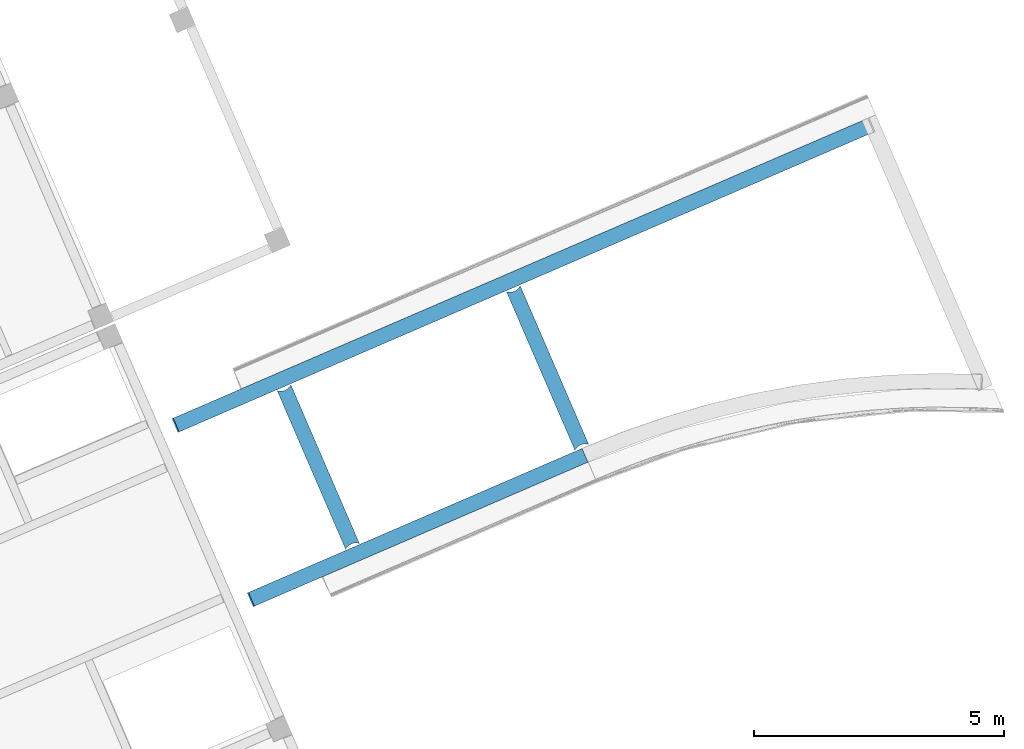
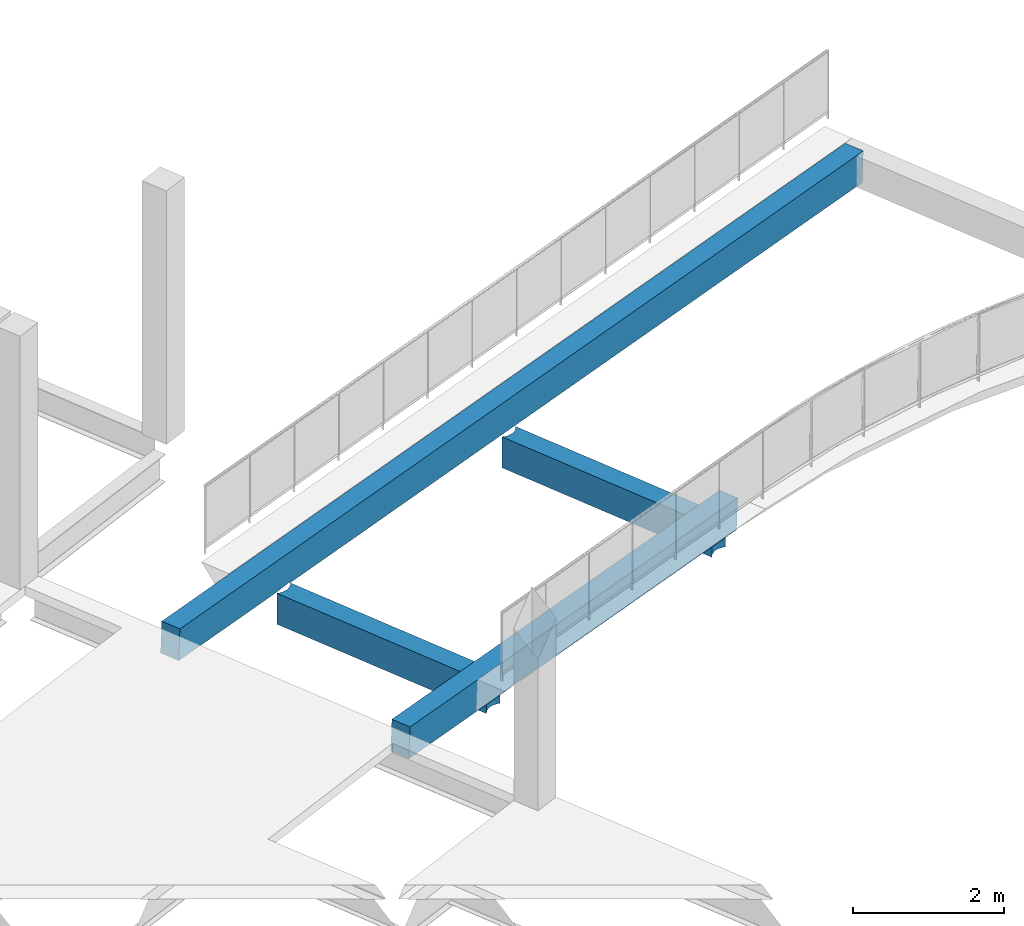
# One storey, part 23 of 24: 4 beams.
"""IFC4 building model written with IfcOpenShell, lengths in metres."""

from ifc_helpers import new_model, entity, si_unit, converted_unit, derived_unit, direction, frame, origin, place, context, subcontext, project, spatial, polygons, source, transform, mapped, material, type_object, type_shapes, element, save


model = new_model("IFC4")

# Units and contexts
model_context = context("Model", 3, precision=1e-05, world=origin(), true_north=direction((6.12323399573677e-17, 1.0)))
body_context = subcontext(model_context, "Body", "Model", "MODEL_VIEW")
ifc_project = project(units=[si_unit("LENGTHUNIT", "METRE"), si_unit("AREAUNIT", "SQUARE_METRE"), si_unit("VOLUMEUNIT", "CUBIC_METRE"), converted_unit("PLANEANGLEUNIT", "DEGREE", entity("IfcPlaneAngleMeasure", 0.0174532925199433), si_unit("PLANEANGLEUNIT", "RADIAN"), dimensions=[0, 0, 0, 0, 0, 0, 0]), si_unit("MASSUNIT", "GRAM", prefix="KILO"), derived_unit("MOMENTOFINERTIAUNIT", [(si_unit("LENGTHUNIT", "METRE"), 4)]), derived_unit("LINEARFORCEUNIT", [(si_unit("MASSUNIT", "GRAM", prefix="KILO"), 1), (si_unit("TIMEUNIT", "SECOND"), -2)]), derived_unit("WARPINGCONSTANTUNIT", [(si_unit("LENGTHUNIT", "METRE"), 6)]), derived_unit("THERMALTRANSMITTANCEUNIT", [(si_unit("MASSUNIT", "GRAM", prefix="KILO"), 1), (si_unit("THERMODYNAMICTEMPERATUREUNIT", "KELVIN"), -1), (si_unit("TIMEUNIT", "SECOND"), -3)]), derived_unit("USERDEFINED", [(si_unit("MASSUNIT", "GRAM", prefix="KILO"), 1), (si_unit("TIMEUNIT", "SECOND"), -2), (si_unit("THERMODYNAMICTEMPERATUREUNIT", "KELVIN"), -1)]), derived_unit("THERMALRESISTANCEUNIT", [(si_unit("MASSUNIT", "GRAM", prefix="KILO"), -1), (si_unit("TIMEUNIT", "SECOND"), 3), (si_unit("THERMODYNAMICTEMPERATUREUNIT", "KELVIN"), 1)])], contexts=[model_context])

# Site, building, storey
site_placement = place(None, origin())
site = spatial("IfcSite", under=ifc_project, at=site_placement, Name="Default", CompositionType="ELEMENT")
building_placement = place(site_placement, frame((12.6613425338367, -82.5732315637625, 317.15), z_axis=(0.0, 0.0, 1.0), x_axis=(-0.396377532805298, 0.918087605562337, 0.0)))
building = spatial("IfcBuilding", under=site, at=building_placement, Name="CESFAM Coyhaique", CompositionType="ELEMENT")
storey_placement = place(building_placement, frame((0.0, 0.0, 4.20000000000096)))
storey = spatial("IfcBuildingStorey", under=building, at=storey_placement, Name="Nivel 2", CompositionType="ELEMENT", Elevation=4.20000000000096)

# Beams
ifc_material = material(Name="HA")
beam_type_1 = type_object("IfcBeamType", Name="M_Concrete-Rectangular Beam:300 x 500mm", PredefinedType="BEAM", material=ifc_material)
shared_shape_1 = source(origin(), body_context, "Body", "Tessellation", [
    polygons([(0.301595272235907, 0.0, 0.499323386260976), (0.00159527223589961, 0.0, 0.499323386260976), (0.00159527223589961, 1.05706961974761e-05, 0.499120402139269), (0.00159527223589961, 0.0260029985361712, 4.44089209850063e-16), (0.301595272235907, 0.0260029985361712, 4.44089209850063e-16), (0.301595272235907, 1.05706961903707e-05, 0.499120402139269), (0.301595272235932, 15.1699995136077, 1.28932338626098), (0.301595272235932, 15.1960025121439, 0.79), (0.00159527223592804, 15.1960025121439, 0.79), (0.00159527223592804, 15.1699995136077, 1.28932338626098), (0.00159527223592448, 13.0600059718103, 0.678764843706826), (0.00159527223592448, 13.0600059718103, 0.679120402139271), (0.00159527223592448, 12.7245957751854, 0.679120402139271), (0.00159527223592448, 12.7245957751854, 0.661297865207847), (0.00159527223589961, 0.152471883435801, 0.00658605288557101), (0.0395563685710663, 12.6971796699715, 0.659870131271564), (0.0823701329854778, 12.678214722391, 0.658882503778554), (0.128182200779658, 12.6685223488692, 0.658377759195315), (0.175008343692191, 12.6685223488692, 0.658377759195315), (0.220820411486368, 12.678214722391, 0.658882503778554), (0.263634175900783, 12.6971796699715, 0.659870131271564), (0.301595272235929, 12.7245957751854, 0.661297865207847), (0.301595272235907, 0.152471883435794, 0.00658605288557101), (0.250336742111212, 7.69012490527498, 0.399120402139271), (0.0528538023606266, 7.69012490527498, 0.399120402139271), (0.100922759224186, 7.67308112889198, 0.39823282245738), (0.15159527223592, 7.66730087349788, 0.397931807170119), (0.202267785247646, 7.67308112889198, 0.39823282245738), (0.301595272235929, 12.7245957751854, 0.679120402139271), (0.301595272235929, 13.0600059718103, 0.679120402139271), (0.301595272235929, 13.0600059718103, 0.678764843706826), (0.263635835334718, 12.6971806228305, 0.679120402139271), (0.220821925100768, 12.6782152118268, 0.679120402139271), (0.175010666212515, 12.6685225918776, 0.679120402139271), (0.128185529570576, 12.6685220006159, 0.679120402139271), (0.0823737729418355, 12.6782135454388, 0.679120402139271), (0.0395589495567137, 12.6971781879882, 0.679120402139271), (0.00558386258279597, 13.0634898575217, 0.679120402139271), (0.00959763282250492, 13.0668335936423, 0.679120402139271), (0.293592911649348, 13.0668335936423, 0.679120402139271), (0.297655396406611, 13.0634482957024, 0.679120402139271), (0.297633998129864, 13.0634665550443, 0.67894505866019), (0.299625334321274, 13.0617271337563, 0.679120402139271), (0.299614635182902, 13.0617362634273, 0.678854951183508), (0.29862431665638, 13.0626014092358, 0.678900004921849), (0.300846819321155, 13.0606598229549, 0.678798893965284), (0.300610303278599, 13.0608665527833, 0.679120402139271), (0.295164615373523, 13.0655238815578, 0.67912040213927), (0.295122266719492, 13.065559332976, 0.679054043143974), (0.294357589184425, 13.0661964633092, 0.679087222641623), (0.294378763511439, 13.0661787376, 0.67912040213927), (0.296378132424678, 13.0645129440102, 0.678999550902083), (0.296410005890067, 13.0644860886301, 0.67912040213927), (0.297032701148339, 13.0639671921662, 0.679120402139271), (0.298640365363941, 13.0625877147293, 0.679120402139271), (0.00555654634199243, 13.0634665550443, 0.67894505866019), (0.0080682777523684, 13.065559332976, 0.679054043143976), (0.00802574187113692, 13.0655241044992, 0.679120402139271), (0.00680480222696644, 13.0645069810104, 0.679120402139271), (0.00681241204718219, 13.0645129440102, 0.678999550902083), (0.00618447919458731, 13.0639897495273, 0.678972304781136), (0.00358956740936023, 13.061747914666, 0.67912040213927), (0.0035759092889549, 13.0617362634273, 0.678854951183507), (0.00234372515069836, 13.0606598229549, 0.678798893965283), (0.00456622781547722, 13.0626014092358, 0.678900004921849), (0.00458671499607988, 13.0626188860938, 0.679120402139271), (0.00259241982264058, 13.0608769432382, 0.67912040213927), (0.21219296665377, 7.67561465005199, 0.399120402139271), (0.172043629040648, 7.66823198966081, 0.399120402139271), (0.131213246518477, 7.66822594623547, 0.399120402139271), (0.0910470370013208, 7.67560082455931, 0.399120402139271), (0.111130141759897, 7.6719133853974, 0.399120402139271), (0.151628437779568, 7.66822896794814, 0.399120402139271), (0.192118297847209, 7.6719233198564, 0.399120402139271), (0.219782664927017, 7.67929136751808, 0.398556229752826), (0.176931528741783, 7.67019100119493, 0.39808231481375), (0.126259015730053, 7.67019100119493, 0.39808231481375), (0.0834078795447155, 7.67929136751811, 0.398556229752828), (0.101088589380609, 7.67375710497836, 0.39912040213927), (0.11359088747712, 7.67163606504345, 0.398157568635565), (0.164263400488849, 7.6687459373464, 0.398007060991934), (0.202155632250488, 7.6737689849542, 0.399120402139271), (0.211025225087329, 7.67618624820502, 0.398394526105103), (0.189599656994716, 7.67163606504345, 0.398157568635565), (0.138927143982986, 7.6687459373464, 0.398007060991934), (0.0921653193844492, 7.67618624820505, 0.398394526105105), (0.161836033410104, 7.66823047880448, 0.399120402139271), (0.121171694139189, 7.67006966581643, 0.399120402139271), (0.235059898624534, 7.68431344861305, 0.399120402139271), (0.18208096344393, 7.67007765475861, 0.399120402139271), (0.141420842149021, 7.66822745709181, 0.399120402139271), (0.0681312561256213, 7.6843152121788, 0.399120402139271), (0.223626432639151, 7.67996404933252, 0.399120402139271), (0.079589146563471, 7.67995801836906, 0.399120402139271), (0.217909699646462, 7.67778934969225, 0.399120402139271), (0.0853180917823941, 7.67777942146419, 0.399120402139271), (0.235059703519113, 7.68470813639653, 0.398838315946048), (0.227421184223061, 7.68199975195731, 0.398697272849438), (0.0681308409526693, 7.68470813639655, 0.398838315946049), (0.223601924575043, 7.68064555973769, 0.398626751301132), (0.0757693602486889, 7.68199975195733, 0.398697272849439), (0.079588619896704, 7.68064555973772, 0.398626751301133), (0.073860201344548, 7.68213661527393, 0.399120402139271), (0.229343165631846, 7.68213874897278, 0.399120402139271), (0.0719501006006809, 7.68335394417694, 0.398767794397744), (0.231240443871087, 7.68335394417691, 0.398767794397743), (0.232201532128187, 7.68322609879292, 0.399120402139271), (0.0709957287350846, 7.68322591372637, 0.399120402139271), (0.0960678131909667, 7.67467896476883, 0.399120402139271), (0.0965440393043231, 7.67463368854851, 0.398313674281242), (0.215403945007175, 7.67773880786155, 0.398475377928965), (0.206646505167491, 7.6746336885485, 0.398313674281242), (0.207174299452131, 7.6746918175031, 0.399120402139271), (0.0877865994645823, 7.67773880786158, 0.398475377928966), (0.195933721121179, 7.67235859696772, 0.398195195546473), (0.197136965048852, 7.6728461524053, 0.399120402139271), (0.107256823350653, 7.67235859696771, 0.398195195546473), (0.106109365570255, 7.67283524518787, 0.399120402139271), (0.157929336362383, 7.66802340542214, 0.397969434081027), (0.145261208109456, 7.66802340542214, 0.397969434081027), (0.119924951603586, 7.67091353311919, 0.398119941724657), (0.177062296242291, 7.66915482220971, 0.399120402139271), (0.116150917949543, 7.67099152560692, 0.399120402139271), (0.13259307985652, 7.66946846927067, 0.398044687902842), (0.136317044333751, 7.66822670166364, 0.399120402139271), (0.170597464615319, 7.66946846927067, 0.398044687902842), (0.187099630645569, 7.67100048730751, 0.399120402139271), (0.126192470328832, 7.66914780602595, 0.39912040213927), (0.242698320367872, 7.68721917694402, 0.399120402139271), (0.242698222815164, 7.68741652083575, 0.398979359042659), (0.246517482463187, 7.68877071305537, 0.399049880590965), (0.24651753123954, 7.6886720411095, 0.399120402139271), (0.0604925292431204, 7.6872200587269, 0.399120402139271), (0.0604923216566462, 7.68741652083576, 0.39897935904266), (0.0643115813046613, 7.68606232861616, 0.398908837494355), (0.0643118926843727, 7.68576763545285, 0.399120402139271), (0.156732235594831, 7.66822972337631, 0.399120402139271), (0.146524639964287, 7.66822821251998, 0.399120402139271), (0.166939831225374, 7.66823123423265, 0.399120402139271), (0.183265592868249, 7.67091353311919, 0.398119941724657)], [[[3, 4, 5, 6, 1, 2]], [[8, 9, 10, 7]], [[2, 1, 7, 10]], [[3, 2, 10, 9, 11, 12, 13, 14, 15, 4]], [[23, 5, 4, 15, 14, 16, 17, 18, 19, 20, 21, 22], [27, 119, 81, 126, 76, 140, 84, 115, 28, 112, 83, 111, 75, 100, 98, 106, 97, 130, 131, 24, 25, 134, 135, 99, 105, 101, 102, 78, 114, 86, 110, 26, 117, 80, 121, 77, 124, 85, 120]], [[9, 8, 31, 46, 44, 45, 42, 52, 49, 50, 40, 39, 57, 60, 61, 56, 65, 63, 64, 11]], [[5, 23, 22, 29, 30, 31, 8, 7, 1, 6]], [[32, 33, 34, 35, 36, 37, 13, 12, 67, 62, 66, 38, 59, 58, 39, 40, 51, 48, 53, 54, 41, 55, 43, 47, 30, 29]], [[96, 94, 103, 108, 92, 136, 133, 25, 24, 132, 129, 89, 107, 104, 93, 95, 68, 113, 82, 116, 74, 127, 90, 122, 69, 139, 87, 137, 73, 138, 91, 125, 70, 128, 88, 123, 72, 118, 79, 109, 71]], [[46, 30, 47]], [[44, 47, 43]], [[48, 51, 40, 50, 49, 52, 42, 41, 54, 53]], [[55, 41, 42]], [[45, 55, 42]], [[46, 31, 30]], [[46, 47, 44]], [[45, 44, 43]], [[55, 45, 43]], [[16, 14, 37]], [[36, 17, 16]], [[17, 35, 18]], [[14, 13, 37]], [[17, 36, 35]], [[36, 16, 37]], [[35, 19, 18]], [[20, 19, 34]], [[21, 20, 33]], [[22, 21, 32]], [[20, 34, 33]], [[22, 32, 29]], [[32, 21, 33]], [[35, 34, 19]], [[56, 61, 60, 57, 39, 58, 59, 38]], [[66, 62, 65]], [[67, 63, 62]], [[67, 64, 63]], [[38, 66, 56]], [[64, 12, 11]], [[63, 65, 62]], [[66, 65, 56]], [[67, 12, 64]], [[26, 110, 79]], [[120, 138, 27]], [[95, 93, 104, 107, 89, 129, 132, 24, 131, 130, 97, 106, 98, 100, 75, 111, 83, 68]], [[110, 86, 109]], [[116, 115, 74]], [[117, 26, 118]], [[116, 82, 28]], [[94, 96, 71, 86, 114, 78, 102, 101, 105, 99, 135, 134, 25, 133, 136, 92, 108, 103]], [[122, 90, 76, 69]], [[112, 28, 82]], [[27, 138, 73, 137]], [[80, 123, 121]], [[70, 125, 124]], [[79, 118, 26]], [[140, 76, 90]], [[120, 85, 91]], [[113, 68, 83]], [[112, 82, 113]], [[127, 140, 90]], [[124, 125, 85]], [[127, 74, 84]], [[77, 121, 88]], [[140, 127, 84]], [[69, 126, 139]], [[109, 79, 110]], [[86, 71, 109]], [[112, 113, 83]], [[115, 84, 74]], [[115, 116, 28]], [[118, 72, 117]], [[117, 72, 80]], [[137, 119, 27]], [[87, 81, 119]], [[88, 121, 123]], [[128, 70, 77, 88]], [[80, 72, 123]], [[125, 91, 85]], [[81, 139, 126]], [[69, 76, 126]], [[124, 77, 70]], [[137, 87, 119]], [[120, 91, 138]], [[81, 87, 139]]], closed=True),
])
type_shapes(beam_type_1, [shared_shape_1])
beam_1_placement = place(storey_placement, frame((21.2172581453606, -36.8896214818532, -1.44912040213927)))
element("IfcBeam", 1, at=beam_1_placement, inside=storey, type_object=beam_type_1, Name="M_Concrete-Rectangular Beam:300 x 500mm", ObjectType="M_Concrete-Rectangular Beam:300 x 500mm", PredefinedType="BEAM", context=body_context, shape_type="MappedRepresentation", body=[
    mapped(shared_shape_1, transform((0.0, 0.0, 0.0), scale=1.0)),
])
beam_type_2 = type_object("IfcBeamType", Name="M_Concrete-Rectangular Beam:300 x 500mm", PredefinedType="BEAM", material=ifc_material)
shared_shape_2 = source(origin(), body_context, "Body", "Tessellation", [
    polygons([(0.301595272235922, 7.27373582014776, 0.881107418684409), (0.301595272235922, 7.29994449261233, 0.381794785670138), (0.00159527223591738, 7.29994449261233, 0.381794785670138), (0.00159527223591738, 7.27373582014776, 0.881107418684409), (0.00159527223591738, 3.5527136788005e-15, 0.499312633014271), (0.301595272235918, 3.5527136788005e-15, 0.499312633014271), (0.00159527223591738, 5.12413698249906, 0.267587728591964), (0.00159527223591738, 4.82827037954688, 0.267587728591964), (0.00159527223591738, 4.82827037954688, 0.252057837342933), (0.00159527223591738, 0.0262086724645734, 0.0), (0.301595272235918, 0.0262086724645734, 0.0), (0.0395563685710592, 4.800854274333, 0.250618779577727), (0.0823701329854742, 4.78188932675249, 0.249623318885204), (0.128182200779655, 4.7721969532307, 0.249114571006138), (0.175008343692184, 4.7721969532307, 0.249114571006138), (0.220820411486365, 4.78188932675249, 0.249623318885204), (0.263634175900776, 4.800854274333, 0.250618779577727), (0.301595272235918, 4.82827037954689, 0.252057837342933), (0.301595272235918, 4.82827037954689, 0.267587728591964), (0.301595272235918, 5.12413698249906, 0.267587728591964), (0.263635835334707, 4.80085522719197, 0.267587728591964), (0.220821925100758, 4.78188981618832, 0.267587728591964), (0.175010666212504, 4.77219719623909, 0.267587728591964), (0.128185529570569, 4.77219660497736, 0.267587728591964), (0.0823737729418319, 4.78188814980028, 0.267587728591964), (0.0395589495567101, 4.80085279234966, 0.267587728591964)], [[[2, 3, 4, 1]], [[5, 6, 1, 4]], [[9, 10, 5, 4, 3, 7, 8]], [[10, 9, 12, 13, 14, 15, 16, 17, 18, 11]], [[20, 7, 3, 2]], [[19, 20, 2, 1, 6, 11, 18]], [[23, 24, 25, 26, 8, 7, 20, 19, 21, 22]], [[12, 9, 26]], [[25, 13, 12]], [[13, 24, 14]], [[9, 8, 26]], [[13, 25, 24]], [[25, 12, 26]], [[24, 15, 14]], [[16, 15, 23]], [[17, 16, 22]], [[18, 17, 21]], [[16, 23, 22]], [[18, 21, 19]], [[21, 17, 22]], [[24, 23, 15]], [[5, 10, 11, 6]]], closed=True),
])
type_shapes(beam_type_2, [shared_shape_2])
beam_2_placement = place(storey_placement, frame((17.4172581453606, -28.9932960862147, -1.03758772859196)))
element("IfcBeam", 2, at=beam_2_placement, inside=storey, type_object=beam_type_2, Name="M_Concrete-Rectangular Beam:300 x 500mm", ObjectType="M_Concrete-Rectangular Beam:300 x 500mm", PredefinedType="BEAM", context=body_context, shape_type="MappedRepresentation", body=[
    mapped(shared_shape_2, transform((0.0, 0.0, 0.0), scale=1.0)),
])
beam_type_3 = type_object("IfcBeamType", Name="M_Concrete-Rectangular Beam:300 x 500mm", PredefinedType="BEAM", material=ifc_material)
shared_shape_3 = source(origin(), body_context, "Body", "Tessellation", [
    polygons([(0.00159527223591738, 0.301595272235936, 0.5), (0.0260255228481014, 0.268680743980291, 0.5), (0.0440789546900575, 0.231880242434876, 0.5), (0.0551563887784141, 0.192415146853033, 0.5), (0.0588901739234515, 0.15159527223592, 0.5), (0.0551563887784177, 0.110775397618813, 0.5), (0.0440789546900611, 0.0713103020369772, 0.5), (0.0260255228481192, 0.0345098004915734, 0.5), (0.00159527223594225, 0.00159527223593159, 0.5), (3.46618507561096, 0.00159527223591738, 0.5), (3.44175482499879, 0.0345098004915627, 0.5), (3.42370139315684, 0.0713103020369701, 0.5), (3.41262395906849, 0.110775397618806, 0.5), (3.40889017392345, 0.151595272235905, 0.5), (3.41262395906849, 0.192415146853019, 0.5), (3.42370139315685, 0.231880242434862, 0.5), (3.4417548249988, 0.268680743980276, 0.5), (3.46618507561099, 0.301595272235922, 0.5), (0.00159527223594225, 0.00159527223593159, 0.0), (3.46618507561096, 0.00159527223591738, 0.0), (0.0588901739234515, 0.151595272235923, 0.0), (0.0551563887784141, 0.192415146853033, 0.0), (0.0440789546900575, 0.231880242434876, 0.0), (0.026025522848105, 0.268680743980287, 0.0), (0.00159527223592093, 0.301595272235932, 0.0), (3.46618507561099, 0.301595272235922, 0.0), (3.4417548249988, 0.268680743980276, 0.0), (3.42370139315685, 0.231880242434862, 0.0), (3.41262395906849, 0.192415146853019, 0.0), (3.40889017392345, 0.151595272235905, 0.0), (3.41262395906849, 0.110775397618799, 0.0), (3.42370139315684, 0.071310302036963, 0.0), (3.44175482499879, 0.0345098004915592, 0.0), (0.0260255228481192, 0.0345098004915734, 0.0), (0.0440789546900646, 0.0713103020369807, 0.0), (0.0551563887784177, 0.110775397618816, 0.0)], [[[17, 18, 1, 2, 3, 4, 5, 6, 7, 8, 9, 10, 11, 12, 13, 14, 15, 16]], [[20, 10, 9, 19]], [[33, 20, 19, 34, 35, 36, 21, 22, 23, 24, 25, 26, 27, 28, 29, 30, 31, 32]], [[18, 26, 25, 1]], [[5, 4, 22, 21]], [[23, 22, 4, 3]], [[2, 1, 25, 24]], [[3, 2, 24, 23]], [[9, 8, 34, 19]], [[35, 34, 8, 7]], [[6, 5, 21, 36]], [[7, 6, 36, 35]], [[18, 17, 27, 26]], [[28, 27, 17, 16]], [[15, 14, 30, 29]], [[16, 15, 29, 28]], [[14, 13, 31, 30]], [[32, 31, 13, 12]], [[11, 10, 20, 33]], [[12, 11, 33, 32]]], closed=True),
])
type_shapes(beam_type_3, [shared_shape_3])
beam_3_placement = place(storey_placement, frame((17.734963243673, -24.1489158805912, -1.27)))
element("IfcBeam", 3, at=beam_3_placement, inside=storey, type_object=beam_type_3, Name="M_Concrete-Rectangular Beam:300 x 500mm", ObjectType="M_Concrete-Rectangular Beam:300 x 500mm", PredefinedType="BEAM", context=body_context, shape_type="MappedRepresentation", body=[
    mapped(shared_shape_3, transform((0.0, 0.0, 0.0), scale=1.0)),
])
beam_type_4 = type_object("IfcBeamType", Name="M_Concrete-Rectangular Beam:300 x 500mm", PredefinedType="BEAM", material=ifc_material)
shared_shape_4 = source(origin(), body_context, "Body", "Tessellation", [
    polygons([(0.00159527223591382, 0.301595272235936, 0.5), (0.0260255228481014, 0.268680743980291, 0.5), (0.044078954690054, 0.231880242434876, 0.5), (0.0551563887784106, 0.192415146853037, 0.5), (0.0588901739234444, 0.151595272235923, 0.5), (0.0551563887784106, 0.110775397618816, 0.5), (0.0440789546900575, 0.0713103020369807, 0.5), (0.0260255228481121, 0.0345098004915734, 0.5), (0.00159527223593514, 0.00159527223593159, 0.5), (3.46618507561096, 0.00159527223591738, 0.5), (3.44175482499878, 0.0345098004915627, 0.5), (3.42370139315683, 0.0713103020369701, 0.5), (3.41262395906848, 0.110775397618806, 0.5), (3.40889017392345, 0.151595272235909, 0.5), (3.41262395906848, 0.192415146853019, 0.5), (3.42370139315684, 0.231880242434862, 0.5), (3.44175482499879, 0.268680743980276, 0.5), (3.46618507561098, 0.301595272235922, 0.5), (0.00159527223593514, 0.00159527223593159, 0.0), (3.46618507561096, 0.00159527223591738, 0.0), (0.0588901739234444, 0.151595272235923, 0.0), (0.0551563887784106, 0.19241514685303, 0.0), (0.044078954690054, 0.231880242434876, 0.0), (0.0260255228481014, 0.268680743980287, 0.0), (0.00159527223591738, 0.301595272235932, 0.0), (3.46618507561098, 0.301595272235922, 0.0), (3.44175482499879, 0.268680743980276, 0.0), (3.42370139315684, 0.231880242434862, 0.0), (3.41262395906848, 0.192415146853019, 0.0), (3.40889017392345, 0.151595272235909, 0.0), (3.41262395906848, 0.110775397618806, 0.0), (3.42370139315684, 0.0713103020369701, 0.0), (3.44175482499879, 0.0345098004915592, 0.0), (0.0260255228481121, 0.0345098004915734, 0.0), (0.0440789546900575, 0.0713103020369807, 0.0), (0.0551563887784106, 0.110775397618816, 0.0)], [[[17, 18, 1, 2, 3, 4, 5, 6, 7, 8, 9, 10, 11, 12, 13, 14, 15, 16]], [[20, 10, 9, 19]], [[33, 20, 19, 34, 35, 36, 21, 22, 23, 24, 25, 26, 27, 28, 29, 30, 31, 32]], [[18, 26, 25, 1]], [[5, 4, 22, 21]], [[23, 22, 4, 3]], [[2, 1, 25, 24]], [[3, 2, 24, 23]], [[9, 8, 34, 19]], [[35, 34, 8, 7]], [[6, 5, 21, 36]], [[7, 6, 36, 35]], [[18, 17, 27, 26]], [[28, 27, 17, 16]], [[15, 14, 30, 29]], [[16, 15, 29, 28]], [[14, 13, 31, 30]], [[32, 31, 13, 12]], [[11, 10, 20, 33]], [[12, 11, 33, 32]]], closed=True),
])
type_shapes(beam_type_4, [shared_shape_4])
beam_4_placement = place(storey_placement, frame((17.734963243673, -29.1489158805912, -1.55)))
element("IfcBeam", 4, at=beam_4_placement, inside=storey, type_object=beam_type_4, Name="M_Concrete-Rectangular Beam:300 x 500mm", ObjectType="M_Concrete-Rectangular Beam:300 x 500mm", PredefinedType="BEAM", context=body_context, shape_type="MappedRepresentation", body=[
    mapped(shared_shape_4, transform((0.0, 0.0, 0.0), scale=1.0)),
])

save(model, "model.ifc")
